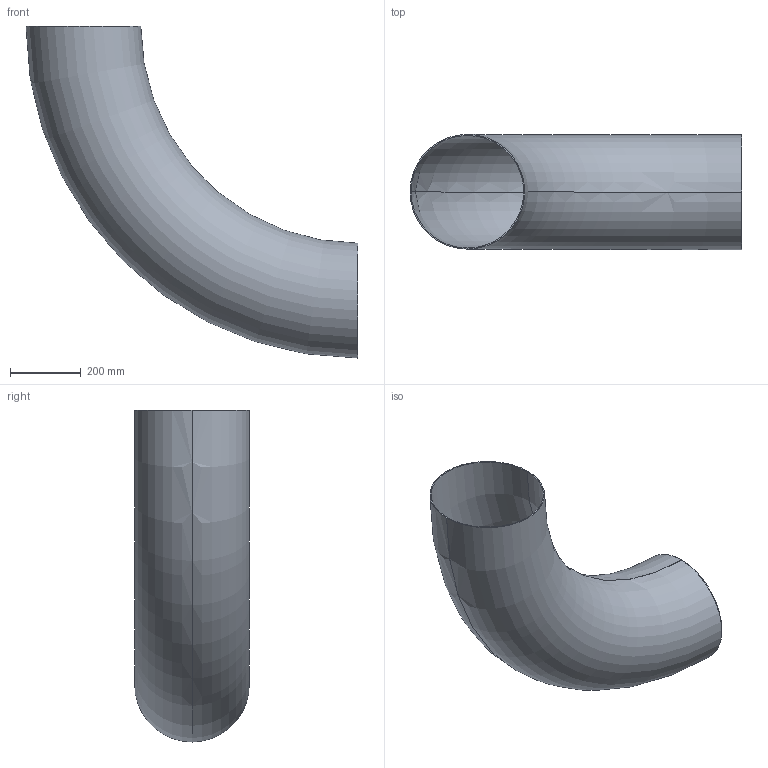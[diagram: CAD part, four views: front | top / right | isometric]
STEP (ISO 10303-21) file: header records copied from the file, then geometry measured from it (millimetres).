
FILE_DESCRIPTION (( 'STEP AP203' ), '1' );
FILE_NAME ('3D_R1655_323.9x3_17362390.STEP', '2024-08-05T09:28:13', ( '' ), ( '' ), 'SwSTEP 2.0', 'SolidWorks 2024', '' );
FILE_SCHEMA (( 'CONFIG_CONTROL_DESIGN' ));
Length unit declared in the file: millimetre
Products named in the file (1): 3D_R1655_323.9x3_17362390
Bounding box: 936.95 x 323.9 x 936.95 mm (x, y, z)
Volume: 3681818.9 mm3; surface area: 2460594.8 mm2
Topology: 1 solids, 1 shells, 6 faces, 12 edges, 8 vertices
Faces by surface type: torus 4, plane 2
Entity records: 249 total; most frequent: DIRECTION 38, CARTESIAN_POINT 27, ORIENTED_EDGE 24, AXIS2_PLACEMENT_3D 19, EDGE_CURVE 12, CIRCLE 12, EDGE_LOOP 8, PERSON_AND_ORGANIZATION 8
